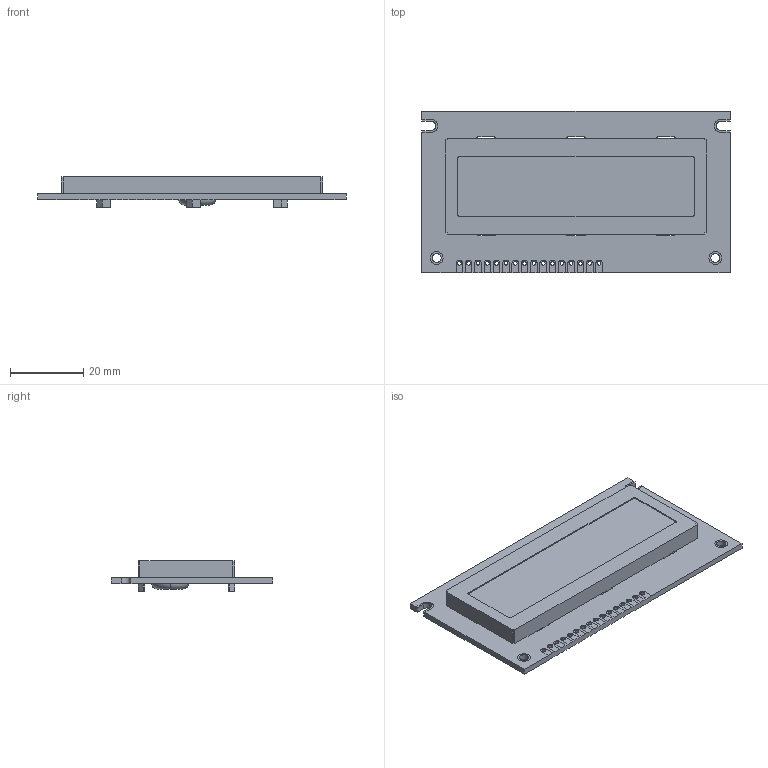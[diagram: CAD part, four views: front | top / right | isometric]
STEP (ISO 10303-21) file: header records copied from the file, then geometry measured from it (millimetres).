
FILE_DESCRIPTION (( 'STEP AP214' ), '1' );
FILE_NAME ('NHD-0108FZ-RN-YBW.STEP', '2018-02-19T16:35:11', ( '' ), ( '' ), 'SwSTEP 2.0', 'SolidWorks 2018', '' );
FILE_SCHEMA (( 'AUTOMOTIVE_DESIGN' ));
Length unit declared in the file: millimetre
Products named in the file (1): NHD-0108FZ-RN-YBW
Bounding box: 84 x 44 x 8.3 mm (x, y, z)
Volume: 14255.7 mm3; surface area: 9043 mm2
Topology: 1 solids, 1 shells, 342 faces, 987 edges, 648 vertices
Faces by surface type: plane 227, cylinder 113, torus 2
Entity records: 15075 total; most frequent: CARTESIAN_POINT 1978, ORIENTED_EDGE 1974, DIRECTION 1905, EDGE_CURVE 987, VECTOR 755, LINE 755, VERTEX_POINT 648, AXIS2_PLACEMENT_3D 575
